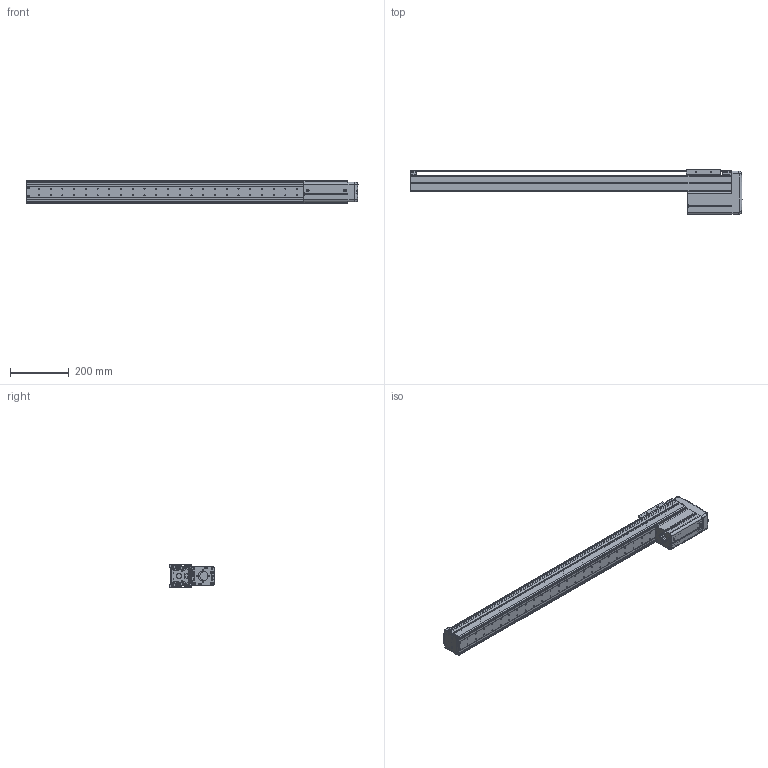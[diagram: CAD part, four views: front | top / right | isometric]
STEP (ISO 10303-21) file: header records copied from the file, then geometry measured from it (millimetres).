
FILE_DESCRIPTION((''),'2;1');
FILE_NAME('BE10E-UU-M_N-90_IGS_PRT','2017-06-17T',(' '),(''),'PRO/ENGINEER BY PARAMETRIC TECHNOLOGY CORPORATION, 2015030','PRO/ENGINEER BY PARAMETRIC TECHNOLOGY CORPORATION, 2015030','');
FILE_SCHEMA(('CONFIG_CONTROL_DESIGN'));
Length unit declared in the file: millimetre
Products named in the file (1): BE10E-UU-M_N-90_IGS_PRT
Bounding box: 1131.42 x 153 x 78 mm (x, y, z)
Volume: 1566581.3 mm3; surface area: 1056841.4 mm2
Topology: 2 solids, 129 shells, 1877 faces, 5078 edges, 3306 vertices
Faces by surface type: cylinder 921, plane 728, cone 81, torus 69, sphere 44, bspline 34
Entity records: 61543 total; most frequent: CARTESIAN_POINT 13059, DIRECTION 10514, ORIENTED_EDGE 9598, EDGE_CURVE 5042, AXIS2_PLACEMENT_3D 3944, VERTEX_POINT 3306, VECTOR 2626, LINE 2626
